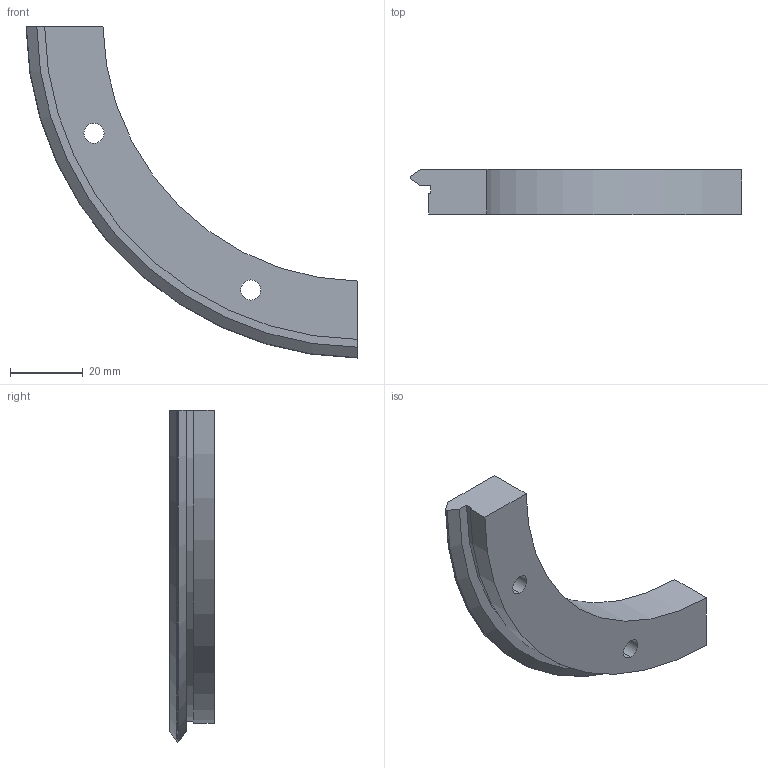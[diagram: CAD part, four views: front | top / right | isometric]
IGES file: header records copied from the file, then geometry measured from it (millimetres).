
Start section: 3D InterOp IGES (v. 2020 1.0.1), Spatial Corp. Copyright (c) 1999-2017.
Global section: file name: res_184_r90.igs; native system: Spatial Corp.; preprocessor: 3D InterOp ACIS/IGES; author: TraceParts; organization: TraceParts S.A.; date: 20210201.082902; units: millimetre
Bounding box: 91.1 x 12.25 x 91.1 mm (x, y, z)
Surface area: 8994.2 mm2 (no closed solid volume)
Topology: 0 solids, 0 shells, 23 faces, 114 edges, 114 vertices
Faces by surface type: revolution 15, extrusion 8
